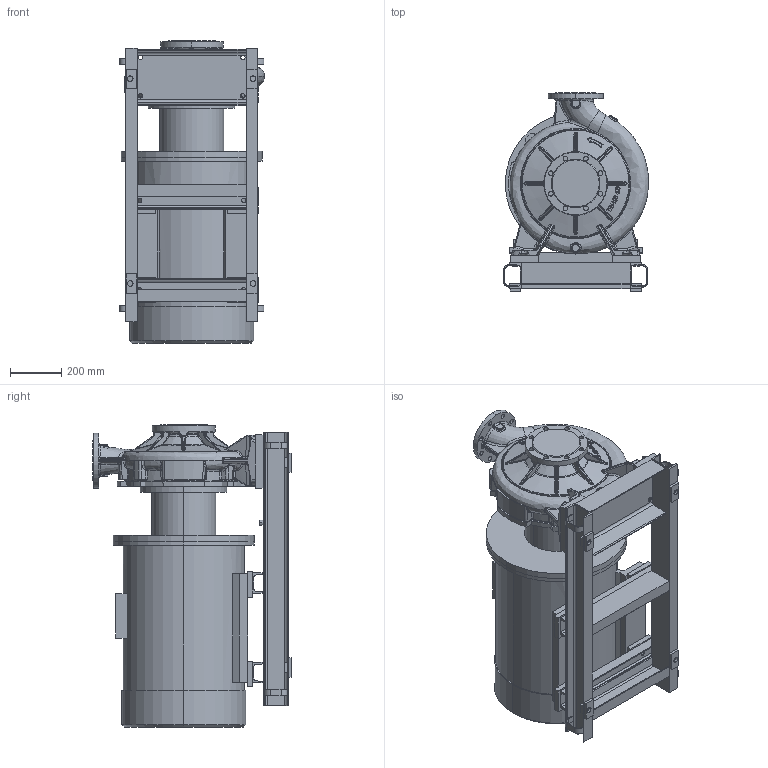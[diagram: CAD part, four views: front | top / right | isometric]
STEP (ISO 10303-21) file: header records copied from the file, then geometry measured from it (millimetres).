
FILE_DESCRIPTION (( 'STEP AP203' ), '1' );
FILE_NAME ('KRM 125-100-400-4-55.STEP', '2026-05-20T07:29:17', ( '' ), ( '' ), 'SwSTEP 2.0', 'SolidWorks 2016', '' );
FILE_SCHEMA (( 'CONFIG_CONTROL_DESIGN' ));
Length unit declared in the file: millimetre
Products named in the file (1): KRM 125-100-400-4-55
Bounding box: 566.68 x 775 x 1180.8 mm (x, y, z)
Volume: 197096106.4 mm3; surface area: 6300051.2 mm2
Topology: 38 solids, 38 shells, 1701 faces, 4087 edges, 2475 vertices
Faces by surface type: bspline 580, plane 478, cylinder 372, cone 110, torus 106, sphere 55
Entity records: 101502 total; most frequent: CARTESIAN_POINT 66355, ORIENTED_EDGE 8108, DIRECTION 6216, EDGE_CURVE 4054, AXIS2_PLACEMENT_3D 2488, VERTEX_POINT 2475, EDGE_LOOP 1829, FACE_OUTER_BOUND 1701
